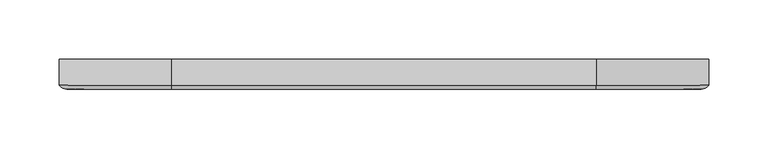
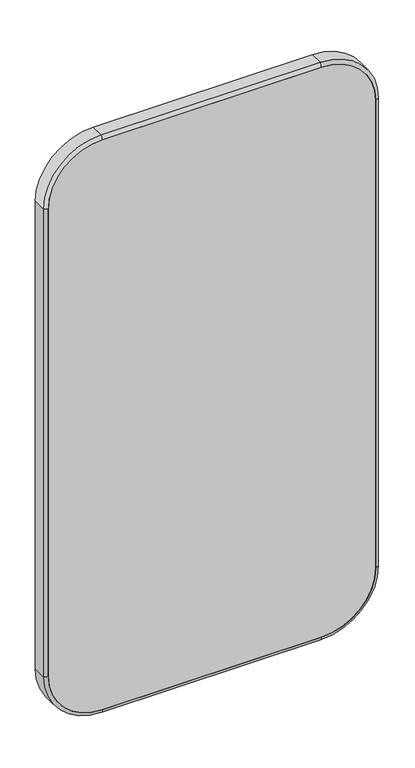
"""IFC4 building model written with IfcOpenShell, lengths in millimetres: proxy geometry, TSL_UK - TSLMR20 - Wall Mounted Mirror Rectangular : TSL.MR.20 - Satin."""

import ifcopenshell
import ifcopenshell.guid

model = None  # the IFC model being written
_history = None  # IfcOwnerHistory: only IFC2X3 demands one
_inside = {}  # id of a spatial element -> (the spatial element, [elements in it])
_under = {}  # id of a project, library or spatial element -> (it, [spatial elements below it])
_declared = {}  # id of a project -> (the project, [libraries it declares])
_typed = {}  # id of a type object -> (the type object, [elements of that type])
_made_of = {}  # id of a material, layer set ... -> (it, [elements and type objects made of it])


def new_model(schema):
    """Start an empty IFC model of exactly this schema.

    Asked for "IFC4X3", IfcOpenShell would pick the latest addendum, in which some entities
    have other attributes; the version numbers below select the first issue.
    IFC2X3 requires an IfcOwnerHistory on every rooted entity: one is made here for all.
    """
    global model, _history
    if schema == "IFC4X3":
        model = ifcopenshell.file(schema_version=(4, 3, 0, 0))
    else:
        model = ifcopenshell.file(schema=schema)
    _inside.clear()
    _under.clear()
    _declared.clear()
    _typed.clear()
    _made_of.clear()
    _history = None
    if model.schema == "IFC2X3":
        org = make("IfcOrganization", Name="unknown")
        user = make(
            "IfcPersonAndOrganization",
            ThePerson=make("IfcPerson", FamilyName="unknown"),
            TheOrganization=org,
        )
        app = make(
            "IfcApplication",
            ApplicationDeveloper=org,
            Version="unknown",
            ApplicationFullName="unknown",
            ApplicationIdentifier="unknown",
        )
        _history = make(
            "IfcOwnerHistory",
            OwningUser=user,
            OwningApplication=app,
            ChangeAction="ADDED",
            CreationDate=0,
        )
    return model


def make(cls, **values):
    """One entity of the class cls with the attributes given. An attribute that is None is left unset."""
    return model.create_entity(
        cls, **{name: value for name, value in values.items() if value is not None}
    )


def rooted(cls, **values):
    """An entity with a GlobalId (a new one), such as an element, a storey or a relation."""
    return make(cls, GlobalId=ifcopenshell.guid.new(), OwnerHistory=_history, **values)


def si_unit(unit_type, name, prefix=None):
    """IfcSIUnit, for example si_unit("LENGTHUNIT", "METRE", prefix="MILLI")."""
    return make("IfcSIUnit", UnitType=unit_type, Prefix=prefix, Name=name)


def assignment(units):
    """IfcUnitAssignment: the units of a project."""
    return None if units is None else make("IfcUnitAssignment", Units=units)


def point(xyz):
    """IfcCartesianPoint."""
    return None if xyz is None else make("IfcCartesianPoint", Coordinates=xyz)


def direction(xyz):
    """IfcDirection."""
    return None if xyz is None else make("IfcDirection", DirectionRatios=xyz)


def frame(location, z_axis=None, x_axis=None):
    """IfcAxis2Placement3D, a coordinate frame: its origin and axes. An axis left out is left unset."""
    return make(
        "IfcAxis2Placement3D",
        Location=point(location),
        Axis=direction(z_axis),
        RefDirection=direction(x_axis),
    )


def frame_2d(location, x_axis=None):
    """IfcAxis2Placement2D, a coordinate frame in the plane: its origin and x axis."""
    return make(
        "IfcAxis2Placement2D", Location=point(location), RefDirection=direction(x_axis)
    )


def origin():
    """The frame at (0, 0, 0) with its axes left unset."""
    return frame((0.0, 0.0, 0.0))


def place(relative_to, where):
    """IfcLocalPlacement: puts the frame where relative to a parent placement (None: the world)."""
    return make(
        "IfcLocalPlacement", PlacementRelTo=relative_to, RelativePlacement=where
    )


def context(
    kind, dimensions, precision=None, world=None, true_north=None, identifier=None
):
    """IfcGeometricRepresentationContext, for example the 3D "Model" context."""
    return make(
        "IfcGeometricRepresentationContext",
        ContextIdentifier=identifier,
        ContextType=kind,
        CoordinateSpaceDimension=dimensions,
        Precision=precision,
        WorldCoordinateSystem=world,
        TrueNorth=true_north,
    )


def project(units=None, contexts=None):
    """IfcProject with its units and contexts."""
    return rooted(
        "IfcProject",
        Name="project",
        RepresentationContexts=contexts,
        UnitsInContext=assignment(units),
    )


def spatial(cls, under=None, at=None, **own):
    """A site, building, storey or space (cls), placed at a placement, below another one or the project."""
    s = rooted(cls, ObjectPlacement=at, **own)
    if under is not None:
        _under.setdefault(under.id(), (under, []))[1].append(s)
    return s


def polyline(points):
    """IfcPolyline through the points."""
    return make("IfcPolyline", Points=[point(p) for p in points])


def circle_curve(where, radius):
    """IfcCircle in the frame where."""
    return make("IfcCircle", Position=where, Radius=radius)


def ellipse_curve(where, semi_axis1, semi_axis2):
    """IfcEllipse in the frame where."""
    return make(
        "IfcEllipse", Position=where, SemiAxis1=semi_axis1, SemiAxis2=semi_axis2
    )


def trimmed(basis, trim1, trim2, sense, master):
    """IfcTrimmedCurve: the piece of a basis curve between two trims."""
    return make(
        "IfcTrimmedCurve",
        BasisCurve=basis,
        Trim1=trim1,
        Trim2=trim2,
        SenseAgreement=sense,
        MasterRepresentation=master,
    )


def segment(curve, same_sense, transition):
    """IfcCompositeCurveSegment."""
    return make(
        "IfcCompositeCurveSegment",
        Transition=transition,
        SameSense=same_sense,
        ParentCurve=curve,
    )


def composite_curve(segments, self_intersect=None):
    """IfcCompositeCurve: segments joined end to end."""
    return make("IfcCompositeCurve", Segments=segments, SelfIntersect=self_intersect)


def outline(outer, holes=None, kind="AREA"):
    """IfcArbitraryClosedProfileDef: a profile drawn as a closed curve; with holes, ...WithVoids."""
    if holes is None:
        return make("IfcArbitraryClosedProfileDef", ProfileType=kind, OuterCurve=outer)
    return make(
        "IfcArbitraryProfileDefWithVoids",
        ProfileType=kind,
        OuterCurve=outer,
        InnerCurves=holes,
    )


def extrude(swept, where, along, depth):
    """IfcExtrudedAreaSolid: the profile swept, set in the frame where, extruded along a direction by depth."""
    return make(
        "IfcExtrudedAreaSolid",
        SweptArea=swept,
        Position=where,
        ExtrudedDirection=direction(along),
        Depth=depth,
    )


def shape(context_of_items, identifier, shape_type, items):
    """IfcShapeRepresentation: the items that make up one representation, for example the "Body"."""
    return make(
        "IfcShapeRepresentation",
        ContextOfItems=context_of_items,
        RepresentationIdentifier=identifier,
        RepresentationType=shape_type,
        Items=items,
    )


def source(mapping_origin, context_of_items, identifier, shape_type, items):
    """IfcRepresentationMap: a shape defined once, which mapped items show again and again."""
    return make(
        "IfcRepresentationMap",
        MappingOrigin=mapping_origin,
        MappedRepresentation=shape(context_of_items, identifier, shape_type, items),
    )


def transform(
    local_origin,
    x_axis=None,
    y_axis=None,
    z_axis=None,
    scale=None,
    scale2=None,
    scale3=None,
    uniform=True,
):
    """IfcCartesianTransformationOperator3D, or its non-uniform kind. x_axis, y_axis, z_axis: its Axis1, 2, 3."""
    if uniform:
        return make(
            "IfcCartesianTransformationOperator3D",
            Axis1=direction(x_axis),
            Axis2=direction(y_axis),
            LocalOrigin=point(local_origin),
            Scale=scale,
            Axis3=direction(z_axis),
        )
    return make(
        "IfcCartesianTransformationOperator3DnonUniform",
        Axis1=direction(x_axis),
        Axis2=direction(y_axis),
        LocalOrigin=point(local_origin),
        Scale=scale,
        Axis3=direction(z_axis),
        Scale2=scale2,
        Scale3=scale3,
    )


def mapped(mapping_source, mapping_target):
    """IfcMappedItem: shows the shape of a source again, moved by a transform."""
    return make(
        "IfcMappedItem", MappingSource=mapping_source, MappingTarget=mapping_target
    )


def made_of(thing, what):
    """Note that an element or type object is made of a material, layer set ...; save() writes the relation."""
    if what is not None:
        _made_of.setdefault(what.id(), (what, []))[1].append(thing)
    return thing


def element(
    cls,
    number,
    at=None,
    inside=None,
    cuts=None,
    type_object=None,
    material=None,
    context=None,
    identifier="Body",
    shape_type=None,
    held_by="IfcProductDefinitionShape",
    body=None,
    shapes=None,
    **own,
):
    """One element of the class cls, such as IfcWall. Its Tag is "e" and its number.

    at: its placement. inside: the storey or other place that contains it. cuts: it is an
    opening in that element (IfcRelVoidsElement). A single representation is given by context,
    identifier, shape_type and body (its items); several are given by shapes. held_by: the class
    of the entity that holds the representations. save() writes the other relations.
    """
    e = rooted(cls, Tag="e%d" % number, ObjectPlacement=at, **own)
    if body is not None:
        shapes = [shape(context, identifier, shape_type, body)]
    if shapes is not None:
        e.Representation = make(held_by, Representations=shapes)
    if inside is not None:
        _inside.setdefault(inside.id(), (inside, []))[1].append(e)
    if cuts is not None:
        rooted(
            "IfcRelVoidsElement", RelatingBuildingElement=cuts, RelatedOpeningElement=e
        )
    if type_object is not None:
        _typed.setdefault(type_object.id(), (type_object, []))[1].append(e)
    return made_of(e, material)


def aggregate(whole, parts):
    """IfcRelAggregates: a whole, such as a stair, and the parts it consists of."""
    return rooted("IfcRelAggregates", RelatingObject=whole, RelatedObjects=parts)


def save(model, path):
    """Write the relations noted so far, then the file.

    IfcRelAggregates (storeys below a building ...), IfcRelContainedInSpatialStructure (elements
    in a storey), IfcRelDefinesByType, IfcRelAssociatesMaterial and IfcRelDeclares: one each for
    every whole, place, type object, material and project.
    """
    for whole, parts in _under.values():
        aggregate(whole, parts)
    for where, things in _inside.values():
        rooted(
            "IfcRelContainedInSpatialStructure",
            RelatedElements=things,
            RelatingStructure=where,
        )
    for kind, things in _typed.values():
        rooted("IfcRelDefinesByType", RelatedObjects=things, RelatingType=kind)
    for what, things in _made_of.values():
        rooted("IfcRelAssociatesMaterial", RelatedObjects=things, RelatingMaterial=what)
    for by, libraries in _declared.values():
        rooted("IfcRelDeclares", RelatingContext=by, RelatedDefinitions=libraries)
    model.write(path)


def plane_surface(at):
    """IfcPlane: the flat surface through the origin of the frame at, square to its z axis."""
    return make("IfcPlane", Position=at)


def cylinder_surface(at, radius):
    """IfcCylindricalSurface: all points at the distance radius from the z axis of the frame at."""
    return make("IfcCylindricalSurface", Position=at, Radius=radius)


def revolved_surface(curve, axis_point, axis_direction):
    """IfcSurfaceOfRevolution: the curve turned about the line through axis_point along axis_direction."""
    return make(
        "IfcSurfaceOfRevolution",
        SweptCurve=make("IfcArbitraryOpenProfileDef", ProfileType="CURVE", Curve=curve),
        AxisPosition=make("IfcAxis1Placement", Location=point(axis_point), Axis=direction(axis_direction)),
    )


def advanced_brep(points, edges, surfaces, faces):
    """IfcAdvancedBrep: a solid bounded by faces that lie on surfaces and meet in shared edges.

    An edge is (start, end): straight between two places in points (the first is 0);
    or (start, end, curve); or (start, end, curve, False) where it runs against its curve.
    A face is (place in surfaces, loops), or (place, loops, False) where it looks against
    its surface's normal. A loop lists edges by number (the first is 1), with a minus sign
    where the edge is run from its end to its start. The first loop is the outer one.
    """
    corners = [point(p) for p in points]
    vertices = [make("IfcVertexPoint", VertexGeometry=c) for c in corners]
    made = []
    for start, end, *more in edges:
        made.append(
            make(
                "IfcEdgeCurve",
                EdgeStart=vertices[start],
                EdgeEnd=vertices[end],
                EdgeGeometry=more[0] if more else make("IfcPolyline", Points=[corners[start], corners[end]]),
                SameSense=more[1] if len(more) > 1 else True,
            )
        )
    hull = []
    for where, loops, *sense in faces:
        bounds = []
        for j, loop in enumerate(loops):
            ring = [make("IfcOrientedEdge", EdgeElement=made[abs(k) - 1], Orientation=k > 0) for k in loop]
            bounds.append(
                make(
                    "IfcFaceOuterBound" if j == 0 else "IfcFaceBound",
                    Bound=make("IfcEdgeLoop", EdgeList=ring),
                    Orientation=True,
                )
            )
        hull.append(make("IfcAdvancedFace", Bounds=bounds, FaceSurface=surfaces[where], SameSense=sense[0] if sense else True))
    return make("IfcAdvancedBrep", Outer=make("IfcClosedShell", CfsFaces=hull))


def specialty_equipment_145b7e67(model_context):
    return source(origin(), model_context, "Body", "SolidModel", [
        advanced_brep(
        [(179.3875, 0.0, 2000.125), (274.6375, 0.0, 1904.875), (274.6375, 0.0, 1095.25), (179.3875, 0.0, 1000.0), (-179.3875, 0.0, 1000.0), (-274.6375, 0.0, 1095.25), (-274.6375, 0.0, 1904.875), (-179.3875, 0.0, 2000.125), (-268.2875, 0.0, 1904.875), (-268.2875, 0.0, 1095.25), (-179.3875, 0.0, 1006.35), (179.3875, 0.0, 1006.35), (268.2875, 0.0, 1095.25), (268.2875, 0.0, 1904.875), (179.3875, 0.0, 1993.775), (-179.3875, 0.0, 1993.775), (-179.3875, -22.225, 2000.125), (179.3875, -22.225, 2000.125), (-274.6375, -22.225, 1095.25), (-274.6375, -22.225, 1904.875), (179.3875, -22.225, 1000.0), (-179.3875, -22.225, 1000.0), (274.6375, -22.225, 1904.875), (274.6375, -22.225, 1095.25), (-179.3875, -22.225, 1993.775), (-268.2875, -22.225, 1904.875), (179.3875, -22.225, 1993.775), (179.3875, -25.4, 1993.775), (-179.3875, -25.4, 1993.775), (268.2875, -22.225, 1904.875), (268.2875, -22.225, 1095.25), (268.2875, -25.4, 1095.25), (268.2875, -25.4, 1904.875), (179.3875, -22.225, 1006.35), (-179.3875, -22.225, 1006.35), (-179.3875, -25.4, 1006.35), (179.3875, -25.4, 1006.35), (-268.2875, -22.225, 1095.25), (-268.2875, -25.4, 1904.875), (-268.2875, -25.4, 1095.25)],
        [
            (0, 1, circle_curve(frame((179.3875, 0.0, 1904.875), z_axis=(0.0, 1.0, 0.0), x_axis=(1.0, 0.0, 0.0)), 95.25)),
            (1, 2),
            (2, 3, circle_curve(frame((179.3875, 0.0, 1095.25), z_axis=(0.0, 1.0, 0.0), x_axis=(1.0, 0.0, 0.0)), 95.25)),
            (3, 4),
            (4, 5, circle_curve(frame((-179.3875, 0.0, 1095.25), z_axis=(0.0, 1.0, 0.0), x_axis=(1.0, 0.0, 0.0)), 95.25)),
            (5, 6),
            (6, 7, circle_curve(frame((-179.3875, 0.0, 1904.875), z_axis=(0.0, 1.0, 0.0), x_axis=(1.0, 0.0, 0.0)), 95.25)),
            (7, 0),
            (8, 9),
            (9, 10, circle_curve(frame((-179.3875, 0.0, 1095.25), z_axis=(0.0, -1.0, 0.0), x_axis=(1.0, 0.0, 0.0)), 88.9)),
            (10, 11),
            (11, 12, circle_curve(frame((179.3875, 0.0, 1095.25), z_axis=(0.0, -1.0, 0.0), x_axis=(1.0, 0.0, 0.0)), 88.9)),
            (12, 13),
            (13, 14, circle_curve(frame((179.3875, 0.0, 1904.875), z_axis=(0.0, -1.0, 0.0), x_axis=(1.0, 0.0, 0.0)), 88.9)),
            (14, 15),
            (15, 8, circle_curve(frame((-179.3875, 0.0, 1904.875), z_axis=(0.0, -1.0, 0.0), x_axis=(1.0, 0.0, 0.0)), 88.9)),
            (7, 16),
            (16, 17),
            (17, 0),
            (5, 18),
            (18, 19),
            (19, 6),
            (3, 20),
            (20, 21),
            (21, 4),
            (1, 22),
            (22, 23),
            (23, 2),
            (19, 16, circle_curve(frame((-179.3875, -22.225, 1904.875), z_axis=(0.0, 1.0, 0.0), x_axis=(1.0, 0.0, 0.0)), 95.25)),
            (21, 18, circle_curve(frame((-179.3875, -22.225, 1095.25), z_axis=(0.0, 1.0, 0.0), x_axis=(1.0, 0.0, 0.0)), 95.25)),
            (23, 20, circle_curve(frame((179.3875, -22.225, 1095.25), z_axis=(0.0, 1.0, 0.0), x_axis=(1.0, 0.0, 0.0)), 95.25)),
            (17, 22, circle_curve(frame((179.3875, -22.225, 1904.875), z_axis=(0.0, 1.0, 0.0), x_axis=(1.0, 0.0, 0.0)), 95.25)),
            (15, 24),
            (24, 25, circle_curve(frame((-179.3875, -22.225, 1904.875), z_axis=(0.0, -1.0, 0.0), x_axis=(1.0, 0.0, 0.0)), 88.9)),
            (25, 8),
            (14, 26),
            (26, 27),
            (27, 28),
            (28, 24),
            (13, 29),
            (29, 26, circle_curve(frame((179.3875, -22.225, 1904.875), z_axis=(0.0, -1.0, 0.0), x_axis=(1.0, 0.0, 0.0)), 88.9)),
            (12, 30),
            (30, 31),
            (31, 32),
            (32, 29),
            (11, 33),
            (33, 30, circle_curve(frame((179.3875, -22.225, 1095.25), z_axis=(0.0, -1.0, 0.0), x_axis=(1.0, 0.0, 0.0)), 88.9)),
            (10, 34),
            (34, 35),
            (35, 36),
            (36, 33),
            (9, 37),
            (37, 34, circle_curve(frame((-179.3875, -22.225, 1095.25), z_axis=(0.0, -1.0, 0.0), x_axis=(1.0, 0.0, 0.0)), 88.9)),
            (25, 38),
            (38, 39),
            (39, 37),
            (38, 19, circle_curve(frame((-267.5124031, -15.9123063, 1904.875), z_axis=(0.0, 0.0, -1.0), x_axis=(0.0, -1.0, 0.0)), 9.5193018)),
            (18, 39, circle_curve(frame((-267.5124031, -15.9123063, 1095.25), z_axis=(0.0, 0.0, 1.0), x_axis=(0.0, -1.0, 0.0)), 9.5193018)),
            (39, 35, circle_curve(frame((-179.3875, -25.4, 1095.25), z_axis=(0.0, -1.0, 0.0), x_axis=(-1.0, 0.0, 0.0)), 88.9)),
            (21, 35, circle_curve(frame((-179.3875, -15.9123063, 1007.1250969), z_axis=(-1.0, 0.0, 0.0), x_axis=(0.0, -1.0, 0.0)), 9.5193018)),
            (20, 36, circle_curve(frame((179.3875, -15.9123063, 1007.1250969), z_axis=(-1.0, 0.0, 0.0), x_axis=(0.0, -1.0, 0.0)), 9.5193018)),
            (36, 31, circle_curve(frame((179.3875, -25.4, 1095.25), z_axis=(0.0, -1.0, 0.0), x_axis=(0.0, 0.0, -1.0)), 88.9)),
            (23, 31, circle_curve(frame((267.5124031, -15.9123063, 1095.25), z_axis=(0.0, 0.0, -1.0), x_axis=(0.0, -1.0, 0.0)), 9.5193018)),
            (22, 32, circle_curve(frame((267.5124031, -15.9123063, 1904.875), z_axis=(0.0, 0.0, -1.0), x_axis=(0.0, -1.0, 0.0)), 9.5193018)),
            (32, 27, circle_curve(frame((179.3875, -25.4, 1904.875), z_axis=(0.0, -1.0, 0.0), x_axis=(1.0, 0.0, 0.0)), 88.9)),
            (17, 27, circle_curve(frame((179.3875, -15.9123063, 1992.9999031), z_axis=(1.0, 0.0, 0.0), x_axis=(0.0, -1.0, 0.0)), 9.5193018)),
            (16, 28, circle_curve(frame((-179.3875, -15.9123063, 1992.9999031), z_axis=(1.0, 0.0, 0.0), x_axis=(0.0, -1.0, 0.0)), 9.5193018)),
            (28, 38, circle_curve(frame((-179.3875, -25.4, 1904.875), z_axis=(0.0, -1.0, 0.0), x_axis=(0.0, 0.0, 1.0)), 88.9)),
        ],
        [
            plane_surface(frame((-179.3875, 0.0, 2000.125), z_axis=(0.0, 1.0, 0.0), x_axis=(1.0, 0.0, 0.0))),
            plane_surface(frame((179.3875, -22.225, 2000.125), z_axis=(0.0, 0.0, 1.0), x_axis=(0.0, 1.0, 0.0))),
            plane_surface(frame((-274.6375, -22.225, 1904.875), z_axis=(-1.0, 0.0, 0.0), x_axis=(0.0, 1.0, 0.0))),
            plane_surface(frame((-179.3875, -22.225, 1000.0), z_axis=(0.0, 0.0, -1.0), x_axis=(0.0, 1.0, 0.0))),
            plane_surface(frame((274.6375, -22.225, 1095.25), z_axis=(1.0, 0.0, 0.0), x_axis=(0.0, 1.0, 0.0))),
            cylinder_surface(frame((-179.3875, 0.0, 1904.875), z_axis=(0.0, -1.0, 0.0), x_axis=(1.0, 0.0, 0.0)), 95.25),
            cylinder_surface(frame((-179.3875, 0.0, 1095.25), z_axis=(0.0, -1.0, 0.0), x_axis=(1.0, 0.0, 0.0)), 95.25),
            cylinder_surface(frame((179.3875, 0.0, 1095.25), z_axis=(0.0, -1.0, 0.0), x_axis=(1.0, 0.0, 0.0)), 95.25),
            cylinder_surface(frame((179.3875, 0.0, 1904.875), z_axis=(0.0, -1.0, 0.0), x_axis=(1.0, 0.0, 0.0)), 95.25),
            revolved_surface(polyline([(-90.48749999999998, 0.0, 1904.875), (-90.48749999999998, -22.225, 1904.875)]), (-179.3875, 0.0, 1904.875), (0.0, 1.0, 0.0)),
            plane_surface(frame((-179.3875, -22.225, 1993.775), z_axis=(0.0, 0.0, -1.0), x_axis=(0.0, 1.0, 0.0))),
            revolved_surface(polyline([(268.2875, 0.0, 1904.875), (268.2875, -22.225, 1904.875)]), (179.3875, 0.0, 1904.875), (0.0, 1.0, 0.0)),
            plane_surface(frame((268.2875, -22.225, 1904.875), z_axis=(-1.0, 0.0, 0.0), x_axis=(0.0, 1.0, 0.0))),
            revolved_surface(polyline([(268.2875, 0.0, 1095.25), (268.2875, -22.225, 1095.25)]), (179.3875, 0.0, 1095.25), (0.0, 1.0, 0.0)),
            plane_surface(frame((179.3875, -22.225, 1006.35), z_axis=(0.0, 0.0, 1.0), x_axis=(0.0, 1.0, 0.0))),
            revolved_surface(polyline([(-90.48749999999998, 0.0, 1095.25), (-90.48749999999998, -22.225, 1095.25)]), (-179.3875, 0.0, 1095.25), (0.0, 1.0, 0.0)),
            plane_surface(frame((-268.2875, -22.225, 1095.25), z_axis=(1.0, 0.0, 0.0), x_axis=(0.0, 1.0, 0.0))),
            cylinder_surface(frame((-267.5124031, -15.9123063, 1904.875), z_axis=(0.0, 0.0, 1.0), x_axis=(0.0, -1.0, 0.0)), 9.5193018),
            revolved_surface(polyline([(-268.2875, -25.4, 1095.25), (-268.2875, -22.225, 1095.25)]), (-179.3875, -22.225, 1095.25), (0.0, -1.0, 0.0)),
            revolved_surface(trimmed(ellipse_curve(frame((-267.5124031, -15.9123063, 1095.25), z_axis=(0.0, 0.0, 1.0), x_axis=(0.0, -1.0, 0.0)), 9.5193018, 9.5193018), [point((-274.6375, -22.225, 1095.25))], [point((-268.2875, -25.4, 1095.25))], True, "CARTESIAN"), (-179.3875, -22.225, 1095.25), (0.0, -1.0, 0.0)),
            cylinder_surface(frame((-179.3875, -15.9123063, 1007.1250969), z_axis=(-1.0, 0.0, 0.0), x_axis=(0.0, -1.0, 0.0)), 9.5193018),
            revolved_surface(polyline([(179.3875, -25.4, 1006.35), (179.3875, -22.225, 1006.35)]), (179.3875, -22.225, 1095.25), (0.0, -1.0, 0.0)),
            revolved_surface(trimmed(ellipse_curve(frame((179.3875, -15.9123063, 1007.1250969), z_axis=(-1.0, 0.0, 0.0), x_axis=(0.0, -1.0, 0.0)), 9.5193018, 9.5193018), [point((179.3875, -22.225, 1000.0))], [point((179.3875, -25.4, 1006.35))], True, "CARTESIAN"), (179.3875, -22.225, 1095.25), (0.0, -1.0, 0.0)),
            cylinder_surface(frame((267.5124031, -15.9123063, 1095.25), z_axis=(0.0, 0.0, -1.0), x_axis=(0.0, -1.0, 0.0)), 9.5193018),
            revolved_surface(polyline([(268.2875, -25.4, 1904.875), (268.2875, -22.225, 1904.875)]), (179.3875, -22.225, 1904.875), (0.0, -1.0, 0.0)),
            revolved_surface(trimmed(ellipse_curve(frame((267.5124031, -15.9123063, 1904.875), z_axis=(0.0, 0.0, -1.0), x_axis=(0.0, -1.0, 0.0)), 9.5193018, 9.5193018), [point((274.6375, -22.225, 1904.875))], [point((268.2875, -25.4, 1904.875))], True, "CARTESIAN"), (179.3875, -22.225, 1904.875), (0.0, -1.0, 0.0)),
            cylinder_surface(frame((179.3875, -15.9123063, 1992.9999031), z_axis=(1.0, 0.0, 0.0), x_axis=(0.0, -1.0, 0.0)), 9.5193018),
            revolved_surface(polyline([(-179.3875, -25.4, 1993.775), (-179.3875, -22.225, 1993.775)]), (-179.3875, -22.225, 1904.875), (0.0, -1.0, 0.0)),
            revolved_surface(trimmed(ellipse_curve(frame((-179.3875, -15.9123063, 1992.9999031), z_axis=(1.0, 0.0, 0.0), x_axis=(0.0, -1.0, 0.0)), 9.5193018, 9.5193018), [point((-179.3875, -22.225, 2000.125))], [point((-179.3875, -25.4, 1993.775))], True, "CARTESIAN"), (-179.3875, -22.225, 1904.875), (0.0, -1.0, 0.0)),
        ],
        [
            (0, [[1, 2, 3, 4, 5, 6, 7, 8], [9, 10, 11, 12, 13, 14, 15, 16]]),
            (1, [[-8, 17, 18, 19]]),
            (2, [[-6, 20, 21, 22]]),
            (3, [[-4, 23, 24, 25]]),
            (4, [[-2, 26, 27, 28]]),
            (5, [[-7, -22, 29, -17]]),
            (6, [[-5, -25, 30, -20]]),
            (7, [[-3, -28, 31, -23]]),
            (8, [[-1, -19, 32, -26]]),
            (9, [[-16, 33, 34, 35]]),
            (10, [[-15, 36, 37, 38, 39, -33]]),
            (11, [[-14, 40, 41, -36]]),
            (12, [[-13, 42, 43, 44, 45, -40]]),
            (13, [[-12, 46, 47, -42]]),
            (14, [[-11, 48, 49, 50, 51, -46]]),
            (15, [[-10, 52, 53, -48]]),
            (16, [[-9, -35, 54, 55, 56, -52]]),
            (17, [[-55, 57, -21, 58]]),
            (18, [[-56, 59, -49, -53]]),
            (19, [[-58, -30, 60, -59]]),
            (20, [[-60, -24, 61, -50]]),
            (21, [[-51, 62, -43, -47]]),
            (22, [[-61, -31, 63, -62]]),
            (23, [[-63, -27, 64, -44]]),
            (24, [[-45, 65, -37, -41]]),
            (25, [[-64, -32, 66, -65]]),
            (26, [[-66, -18, 67, -38]]),
            (27, [[-54, -34, -39, 68]]),
            (28, [[-57, -68, -67, -29]]),
        ],
    ),
        extrude(outline(composite_curve([segment(polyline([(1904.875, -268.2875), (1095.25, -268.2875)]), True, "CONTINUOUS"), segment(trimmed(circle_curve(frame_2d((1095.25, -179.3875)), 88.9), [point((1095.25, -268.2875))], [point((1006.35, -179.3875))], False, "CARTESIAN"), True, "CONTINUOUS"), segment(polyline([(1006.35, -179.3875), (1006.35, 179.3875)]), True, "CONTINUOUS"), segment(trimmed(circle_curve(frame_2d((1095.25, 179.3875)), 88.9), [point((1006.35, 179.3875))], [point((1095.25, 268.2875))], False, "CARTESIAN"), True, "CONTINUOUS"), segment(polyline([(1095.25, 268.2875), (1904.875, 268.2875)]), True, "CONTINUOUS"), segment(trimmed(circle_curve(frame_2d((1904.875, 179.3875)), 88.9), [point((1904.875, 268.2875))], [point((1993.775, 179.3875))], False, "CARTESIAN"), True, "CONTINUOUS"), segment(polyline([(1993.775, 179.3875), (1993.775, -179.3875)]), True, "CONTINUOUS"), segment(trimmed(circle_curve(frame_2d((1904.875, -179.3875)), 88.9), [point((1993.775, -179.3875))], [point((1904.875, -268.2875))], False, "CARTESIAN"), True, "CONTINUOUS")], self_intersect=False)), frame((0.0, -25.4, 0.0), z_axis=(0.0, 1.0, 0.0), x_axis=(0.0, 0.0, 1.0)), (0.0, 0.0, 1.0), 25.4),
    ])


if __name__ == "__main__":
    model = new_model("IFC4")
    model_context = context("Model", 3, world=origin())
    ifc_project = project(units=[si_unit("LENGTHUNIT", "METRE", prefix="MILLI")], contexts=[model_context])
    site = spatial("IfcSite", under=ifc_project)
    building = spatial("IfcBuilding", under=site)
    placement = place(None, origin())
    specialty_equipment_shape = specialty_equipment_145b7e67(model_context)
    element("IfcBuildingElementProxy", 1, Name="TSL_UK - TSLMR20 - Wall Mounted Mirror Rectangular : TSL.MR.20 - Satin", ObjectType="TSL_UK - TSLMR20 - Wall Mounted Mirror Rectangular : TSL.MR.20 - Satin", at=placement, inside=building, context=model_context, shape_type="MappedRepresentation", body=[
        mapped(specialty_equipment_shape, transform((0.0, 0.0, 0.0), x_axis=(1.0, 0.0, 0.0), y_axis=(0.0, 1.0, 0.0), z_axis=(0.0, 0.0, 1.0))),
    ])
    save(model, "model.ifc")
